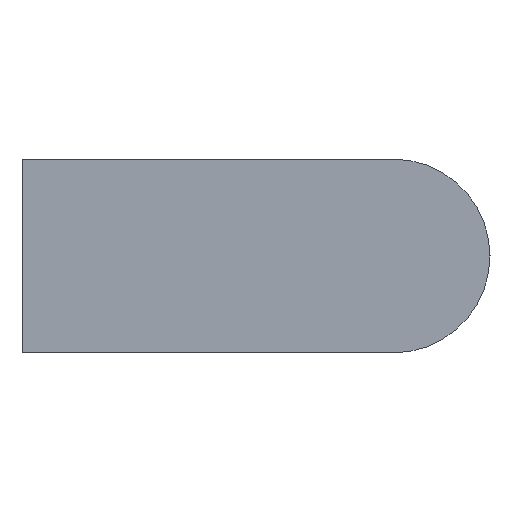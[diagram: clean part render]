
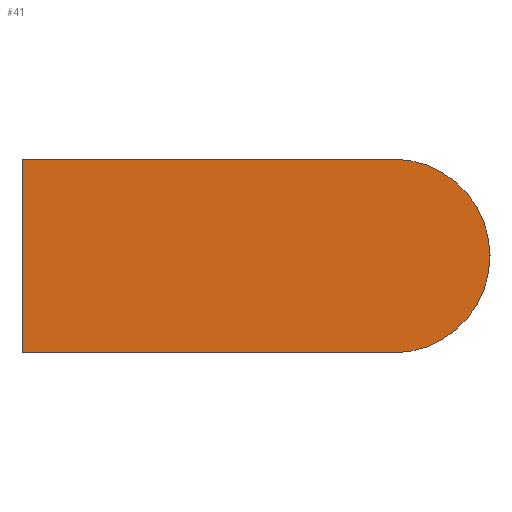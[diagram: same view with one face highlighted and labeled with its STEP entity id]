
A CAD part, left-side view. The second image highlights one B-rep face of the part: STEP entity #41.
In plain terms, the highlighted planar face has unit normal (-1, 0, 0).
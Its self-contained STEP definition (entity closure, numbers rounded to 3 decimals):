
#41 = ADVANCED_FACE( '', ( #92 ), #93, .F. );
#92 = FACE_OUTER_BOUND( '', #157, .T. );
#93 = PLANE( '', #158 );
#157 = EDGE_LOOP( '', ( #216, #217, #218, #219 ) );
#158 = AXIS2_PLACEMENT_3D( '', #220, #221, #222 );
#216 = ORIENTED_EDGE( '', *, *, #344, .F. );
#217 = ORIENTED_EDGE( '', *, *, #345, .F. );
#218 = ORIENTED_EDGE( '', *, *, #346, .F. );
#219 = ORIENTED_EDGE( '', *, *, #347, .F. );
#220 = CARTESIAN_POINT( '', ( -15., -28.04, 0. ) );
#221 = DIRECTION( '', ( 1., 0., 0. ) );
#222 = DIRECTION( '', ( 0., 0., -1. ) );
#344 = EDGE_CURVE( '', #391, #392, #393, .T. );
#345 = EDGE_CURVE( '', #394, #391, #395, .T. );
#346 = EDGE_CURVE( '', #396, #394, #397, .T. );
#347 = EDGE_CURVE( '', #392, #396, #398, .T. );
#391 = VERTEX_POINT( '', #460 );
#392 = VERTEX_POINT( '', #461 );
#393 = LINE( '', #462, #463 );
#394 = VERTEX_POINT( '', #464 );
#395 = LINE( '', #465, #466 );
#396 = VERTEX_POINT( '', #467 );
#397 = LINE( '', #468, #469 );
#398 = CIRCLE( '', #470, 7.32 );
#460 = CARTESIAN_POINT( '', ( -15., 0., 7.32 ) );
#461 = CARTESIAN_POINT( '', ( -15., -28.04, 7.32 ) );
#462 = CARTESIAN_POINT( '', ( -15., 0., 7.32 ) );
#463 = VECTOR( '', #548, 1000. );
#464 = CARTESIAN_POINT( '', ( -15., 0., -7.32 ) );
#465 = CARTESIAN_POINT( '', ( -15., 0., -7.32 ) );
#466 = VECTOR( '', #549, 1000. );
#467 = CARTESIAN_POINT( '', ( -15., -28.04, -7.32 ) );
#468 = CARTESIAN_POINT( '', ( -15., -28.04, -7.32 ) );
#469 = VECTOR( '', #550, 1000. );
#470 = AXIS2_PLACEMENT_3D( '', #551, #552, #553 );
#548 = DIRECTION( '', ( 0., -1., 0. ) );
#549 = DIRECTION( '', ( 0., 0., 1. ) );
#550 = DIRECTION( '', ( 0., 1., 0. ) );
#551 = CARTESIAN_POINT( '', ( -15., -28.04, 0. ) );
#552 = DIRECTION( '', ( 1., 0., 0. ) );
#553 = DIRECTION( '', ( 0., 0., -1. ) );
